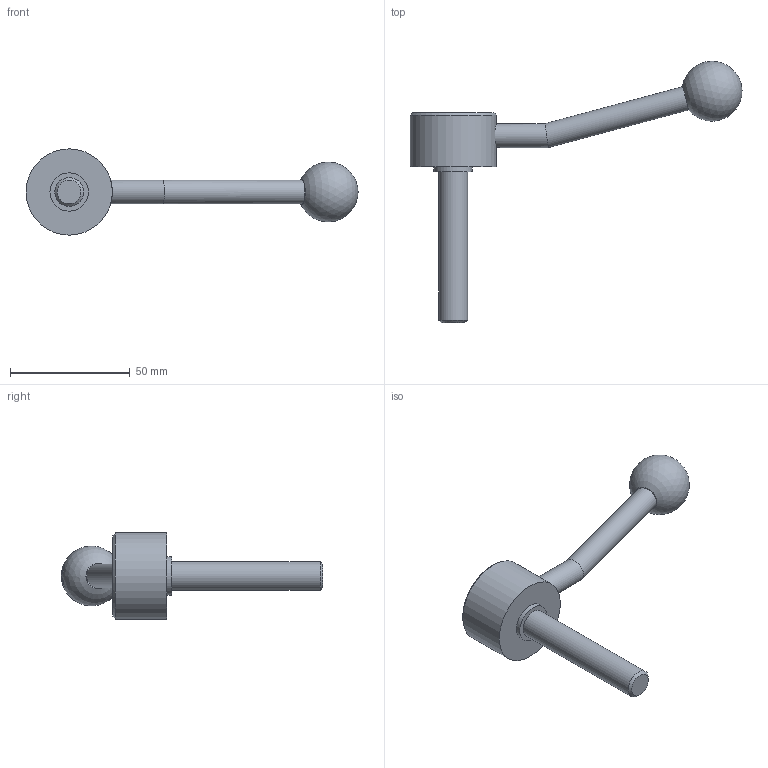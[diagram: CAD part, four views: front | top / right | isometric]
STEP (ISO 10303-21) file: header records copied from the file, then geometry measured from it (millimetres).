
FILE_DESCRIPTION( ( 'STEP AP203' ), '1' );
FILE_NAME( 'C:/Temp/Ganter_Step_05_03_2020/data/2_1/gn_125/gn_125_ms/gn_125_ms_e/Flat Adjustable Lever GN 125-36-M12-63-E.stp', '2020-03-05T11:01:00', ( 'License CC BY-ND 4.0' ), ( 'CADENAS' ), ' ', 'PARTsolutions', ' ' );
FILE_SCHEMA( ( 'CONFIG_CONTROL_DESIGN' ) );
Length unit declared in the file: millimetre
Products named in the file (1): _Flat Adjustable Lever GN 125-36-M12-63-E
Bounding box: 138.41 x 108.97 x 36 mm (x, y, z)
Volume: 44726.5 mm3; surface area: 11341.9 mm2
Topology: 1 solids, 1 shells, 15 faces, 25 edges, 16 vertices
Faces by surface type: cylinder 6, plane 6, cone 2, sphere 1
Full cylindrical faces by diameter (mm): 10 x2, 12 x1, 16 x1, 26 x1, 36 x1
Entity records: 412 total; most frequent: CARTESIAN_POINT 118, DIRECTION 58, AXIS2_PLACEMENT_3D 29, EDGE_LOOP 28, ORIENTED_EDGE 28, FACE_OUTER_BOUND 21, ADVANCED_FACE 15, VERTEX_POINT 15
